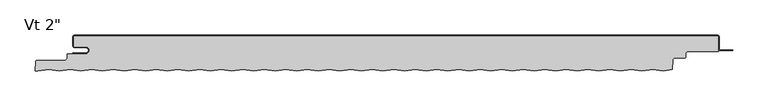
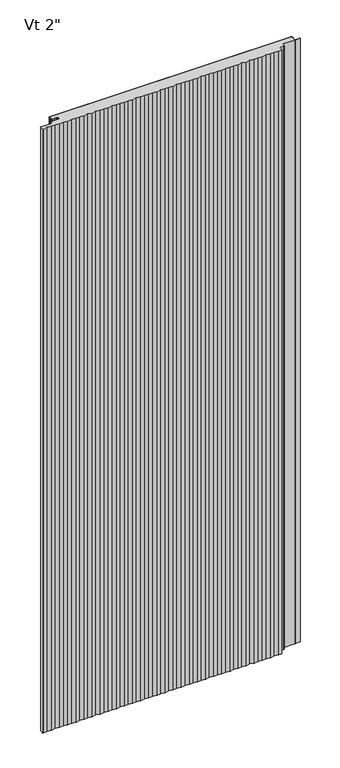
"""IFC4 building model written with IfcOpenShell, lengths in millimetres: plate geometry."""

from ifc_helpers import new_model, si_unit, point, frame_2d, origin, origin_with_axes, place, context, project, spatial, polyline, circle_curve, trimmed, segment, composite_curve, outline, extrude, source, transform, mapped, element, save


def plate_18ae859f(model_context):
    return source(origin(), model_context, "Body", "SweptSolid", [
        extrude(outline(composite_curve([segment(trimmed(circle_curve(frame_2d((412.1683457, -25.4)), 2.5875), [point((412.1683457, -22.8125))], [point((409.5843918, -25.2645807))], True, "CARTESIAN"), True, "CONTINUOUS"), segment(polyline([(409.5843918, -25.2645807), (409.2823155, -31.028539)]), True, "CONTINUOUS"), segment(trimmed(circle_curve(frame_2d((407.9029585, -30.95625)), 1.38125), [point((409.2823155, -31.028539))], [point((407.9029585, -32.3375))], False, "CARTESIAN"), True, "CONTINUOUS"), segment(polyline([(407.9029585, -32.3375), (393.7323847, -32.3375)]), True, "CONTINUOUS"), segment(trimmed(circle_curve(frame_2d((393.7323847, -34.925)), 2.5875), [point((393.7323847, -32.3375))], [point((391.1484307, -34.7895807))], True, "CARTESIAN"), True, "CONTINUOUS"), segment(polyline([(391.1484307, -34.7895807), (390.4106485, -48.8673048), (377.6725, -50.9054086), (362.6350675, -48.4994194), (347.3950675, -50.9378194), (332.1550675, -48.4994194), (316.9150675, -50.9378194), (301.6750675, -48.4994194), (286.4350675, -50.9378194), (271.1950675, -48.4994194), (255.9550675, -50.9378194), (240.7150675, -48.4994194), (225.4750675, -50.9378194), (210.2350675, -48.4994194), (194.9950675, -50.9378194), (179.7550675, -48.4994194), (164.5150675, -50.9378194), (149.2750675, -48.4994194), (134.0350675, -50.9378194), (118.7950675, -48.4994194), (103.5550675, -50.9378194), (88.3150675, -48.4994194), (73.0750675, -50.9378194), (57.8350675, -48.4994194), (42.5950675, -50.9378194), (27.3550675, -48.4994194), (12.1150675, -50.9378194), (-3.1249325, -48.4994194), (-18.3649325, -50.9378194), (-33.6049325, -48.4994194), (-48.8449325, -50.9378194), (-64.0849325, -48.4994194), (-79.3249325, -50.9378194), (-94.5649325, -48.4994194), (-109.8049325, -50.9378194), (-125.0449325, -48.4994194), (-140.2849325, -50.9378194), (-155.5249325, -48.4994194), (-170.7649325, -50.9378194), (-186.0049325, -48.4994194), (-201.2449325, -50.9378194), (-216.4849325, -48.4994194), (-231.7249325, -50.9378194), (-246.9649325, -48.4994194), (-262.2049325, -50.9378194), (-277.4449325, -48.4994194), (-292.6849325, -50.9378194), (-307.9249325, -48.4994194), (-323.1649325, -50.9378194), (-338.4049325, -48.4994194), (-353.6449325, -50.9378194), (-368.8849325, -48.4994194), (-384.1249325, -50.9378194), (-399.3649325, -48.4994194), (-414.6049325, -50.9378194), (-429.8449325, -48.4994194), (-445.0849325, -50.9378194), (-460.3249325, -48.4994194), (-475.5649325, -50.9378194), (-490.8049325, -48.4994194), (-506.0449325, -50.9378194), (-509.3531106, -50.4085109), (-508.6626617, -37.233961)]), True, "CONTINUOUS"), segment(trimmed(circle_curve(frame_2d((-507.2833046, -37.30625)), 1.38125), [point((-508.6626617, -37.233961))], [point((-507.2833046, -35.925))], False, "CARTESIAN"), True, "CONTINUOUS"), segment(polyline([(-507.2833046, -35.925), (-469.1, -35.925)]), True, "CONTINUOUS"), segment(trimmed(circle_curve(frame_2d((-469.1, -30.95625)), 4.96875), [point((-469.1, -35.925))], [point((-464.13125, -30.95625))], True, "CARTESIAN"), True, "CONTINUOUS"), segment(polyline([(-464.13125, -30.95625), (-464.13125, -26.4), (-438.14375, -26.4)]), True, "CONTINUOUS"), segment(trimmed(circle_curve(frame_2d((-438.14375, -21.43125)), 4.96875), [point((-438.14375, -26.4))], [point((-438.14375, -16.4625))], True, "CARTESIAN"), True, "CONTINUOUS"), segment(polyline([(-438.14375, -16.4625), (-454.01875, -16.4625)]), True, "CONTINUOUS"), segment(trimmed(circle_curve(frame_2d((-454.01875, -15.08125)), 1.38125), [point((-454.01875, -16.4625))], [point((-455.4, -15.08125))], False, "CARTESIAN"), True, "CONTINUOUS"), segment(polyline([(-455.4, -15.08125), (-455.4, -2.38125)]), True, "CONTINUOUS"), segment(trimmed(circle_curve(frame_2d((-454.01875, -2.38125)), 1.38125), [point((-455.4, -2.38125))], [point((-454.01875, -1.0))], False, "CARTESIAN"), True, "CONTINUOUS"), segment(polyline([(-454.01875, -1.0), (454.03125, -1.0)]), True, "CONTINUOUS"), segment(trimmed(circle_curve(frame_2d((454.03125, -2.38125)), 1.38125), [point((454.03125, -1.0))], [point((455.4125, -2.38125))], False, "CARTESIAN"), True, "CONTINUOUS"), segment(polyline([(455.4125, -2.38125), (455.4125, -22.8125), (412.1683457, -22.8125)]), True, "CONTINUOUS")], self_intersect=False)), origin_with_axes(), (0.0, 0.0, 1.0), 2400.0),
        extrude(outline(composite_curve([segment(polyline([(-456.4, -25.4), (-438.14375, -25.4)]), True, "CONTINUOUS"), segment(trimmed(circle_curve(frame_2d((-438.14375, -21.43125)), 3.96875), [point((-438.14375, -25.4))], [point((-438.14375, -17.4625))], True, "CARTESIAN"), True, "CONTINUOUS"), segment(polyline([(-438.14375, -17.4625), (-454.01875, -17.4625)]), True, "CONTINUOUS"), segment(trimmed(circle_curve(frame_2d((-454.01875, -15.08125)), 2.38125), [point((-454.01875, -17.4625))], [point((-456.4, -15.08125))], False, "CARTESIAN"), True, "CONTINUOUS"), segment(polyline([(-456.4, -15.08125), (-456.4, -2.38125)]), True, "CONTINUOUS"), segment(trimmed(circle_curve(frame_2d((-454.01875, -2.38125)), 2.38125), [point((-456.4, -2.38125))], [point((-454.01875, 0.0))], False, "CARTESIAN"), True, "CONTINUOUS"), segment(polyline([(-454.01875, 0.0), (454.03125, 0.0)]), True, "CONTINUOUS"), segment(trimmed(circle_curve(frame_2d((454.03125, -2.38125)), 2.38125), [point((454.03125, 0.0))], [point((456.4125, -2.38125))], False, "CARTESIAN"), True, "CONTINUOUS"), segment(polyline([(456.4125, -2.38125), (456.4125, -19.446875)]), True, "CONTINUOUS"), segment(trimmed(circle_curve(frame_2d((458.0, -19.446875)), 1.5875), [point((456.4125, -19.446875))], [point((458.0, -21.034375))], True, "CARTESIAN"), True, "CONTINUOUS"), segment(polyline([(458.0, -21.034375), (475.4625, -21.034375), (475.4625, -22.034375), (458.0, -22.034375)]), True, "CONTINUOUS"), segment(trimmed(circle_curve(frame_2d((458.0, -19.446875)), 2.5875), [point((458.0, -22.034375))], [point((455.4125, -19.446875))], False, "CARTESIAN"), True, "CONTINUOUS"), segment(polyline([(455.4125, -19.446875), (455.4125, -2.38125)]), True, "CONTINUOUS"), segment(trimmed(circle_curve(frame_2d((454.03125, -2.38125)), 1.38125), [point((455.4125, -2.38125))], [point((454.03125, -1.0))], True, "CARTESIAN"), True, "CONTINUOUS"), segment(polyline([(454.03125, -1.0), (-454.01875, -1.0)]), True, "CONTINUOUS"), segment(trimmed(circle_curve(frame_2d((-454.01875, -2.38125)), 1.38125), [point((-454.01875, -1.0))], [point((-455.4, -2.38125))], True, "CARTESIAN"), True, "CONTINUOUS"), segment(polyline([(-455.4, -2.38125), (-455.4, -15.08125)]), True, "CONTINUOUS"), segment(trimmed(circle_curve(frame_2d((-454.01875, -15.08125)), 1.38125), [point((-455.4, -15.08125))], [point((-454.01875, -16.4625))], True, "CARTESIAN"), True, "CONTINUOUS"), segment(polyline([(-454.01875, -16.4625), (-438.14375, -16.4625)]), True, "CONTINUOUS"), segment(trimmed(circle_curve(frame_2d((-438.14375, -21.43125)), 4.96875), [point((-438.14375, -16.4625))], [point((-438.14375, -26.4))], False, "CARTESIAN"), True, "CONTINUOUS"), segment(polyline([(-438.14375, -26.4), (-456.4, -26.4), (-456.4, -25.4)]), True, "CONTINUOUS")], self_intersect=False)), origin_with_axes(), (0.0, 0.0, 1.0), 2400.0),
    ])


if __name__ == "__main__":
    model = new_model("IFC4")
    model_context = context("Model", 3, world=origin())
    ifc_project = project(units=[si_unit("LENGTHUNIT", "METRE", prefix="MILLI")], contexts=[model_context])
    site = spatial("IfcSite", under=ifc_project)
    building = spatial("IfcBuilding", under=site)
    placement = place(None, origin())
    plate_shape = plate_18ae859f(model_context)
    element("IfcPlate", 1, ObjectType="KIP-36-DWHR-R19-CP-Vt-S : Vt 2\"", at=placement, inside=building, context=model_context, shape_type="MappedRepresentation", body=[
        mapped(plate_shape, transform((0.0, 0.0, 0.0), x_axis=(1.0, 0.0, 0.0), y_axis=(0.0, 1.0, 0.0), z_axis=(0.0, 0.0, 1.0))),
    ])
    save(model, "model.ifc")
